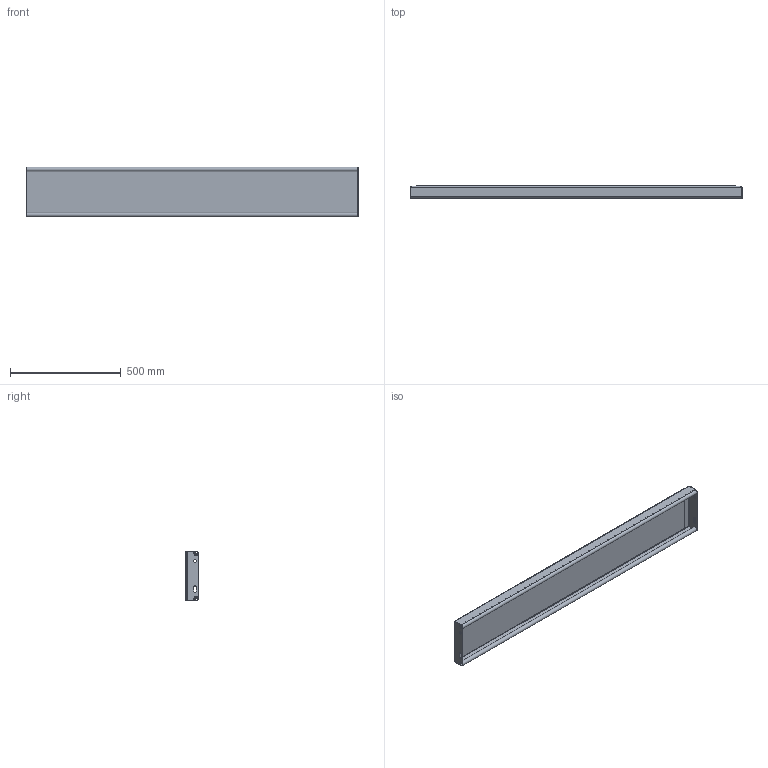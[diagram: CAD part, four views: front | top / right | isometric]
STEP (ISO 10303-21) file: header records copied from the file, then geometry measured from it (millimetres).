
FILE_DESCRIPTION (( 'STEP AP214' ), '1' );
FILE_NAME ('OPTIMO-Tread-Achil-O2-1500x225x57x2-st240-F100300100_plain.STEP', '2021-03-16T08:03:46', ( '' ), ( '' ), 'SwSTEP 2.0', 'SolidWorks 2021', '' );
FILE_SCHEMA (( 'AUTOMOTIVE_DESIGN' ));
Length unit declared in the file: millimetre
Products named in the file (1): OPTIMO-Tread-Achil-O2-1500x225x57x2-st240-F100300100_plain
Bounding box: 1500 x 57 x 225 mm (x, y, z)
Volume: 2189423.3 mm3; surface area: 1270676.9 mm2
Topology: 1 solids, 1 shells, 248 faces, 640 edges, 412 vertices
Faces by surface type: plane 173, bspline 39, cylinder 36
Entity records: 9924 total; most frequent: CARTESIAN_POINT 4092, ORIENTED_EDGE 1280, DIRECTION 1022, EDGE_CURVE 640, VECTOR 490, LINE 490, VERTEX_POINT 412, EDGE_LOOP 274
